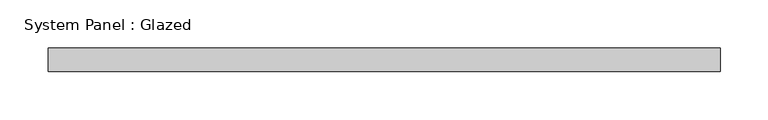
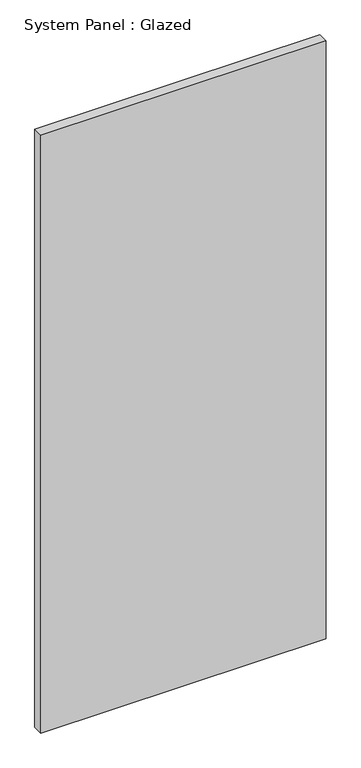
"""IFC4 building model written with IfcOpenShell, lengths in millimetres: plate geometry, System Panel : Glazed."""

from ifc_helpers import new_model, si_unit, origin, origin_with_axes, place, context, project, spatial, polyline, outline, extrude, source, transform, mapped, element, save


def system_panel_glazed_dd63f223(model_context):
    return source(origin(), model_context, "Body", "SweptSolid", [
        extrude(outline(polyline([(350.0, 24.5), (-350.0, 24.5), (-350.0, 49.5), (350.0, 49.5), (350.0, 24.5)])), origin_with_axes(), (0.0, 0.0, 1.0), 1550.0),
    ])


if __name__ == "__main__":
    model = new_model("IFC4")
    model_context = context("Model", 3, world=origin())
    ifc_project = project(units=[si_unit("LENGTHUNIT", "METRE", prefix="MILLI")], contexts=[model_context])
    site = spatial("IfcSite", under=ifc_project)
    building = spatial("IfcBuilding", under=site)
    placement = place(None, origin())
    system_panel_glazed_shape = system_panel_glazed_dd63f223(model_context)
    element("IfcPlate", 1, ObjectType="System Panel : Glazed", at=placement, inside=building, context=model_context, shape_type="MappedRepresentation", body=[
        mapped(system_panel_glazed_shape, transform((0.0, 0.0, 0.0), x_axis=(1.0, 0.0, 0.0), y_axis=(0.0, 1.0, 0.0), z_axis=(0.0, 0.0, 1.0))),
    ])
    save(model, "model.ifc")
